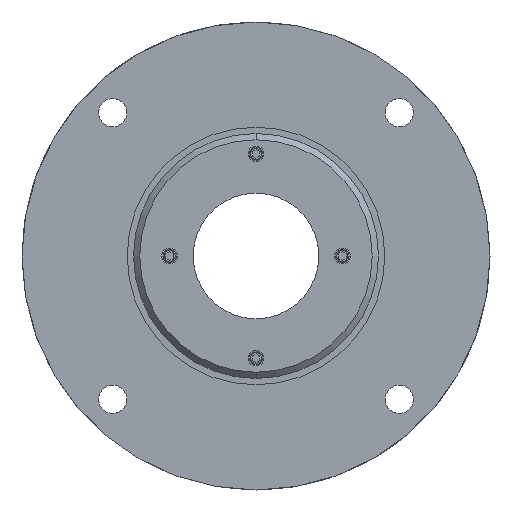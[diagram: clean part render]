
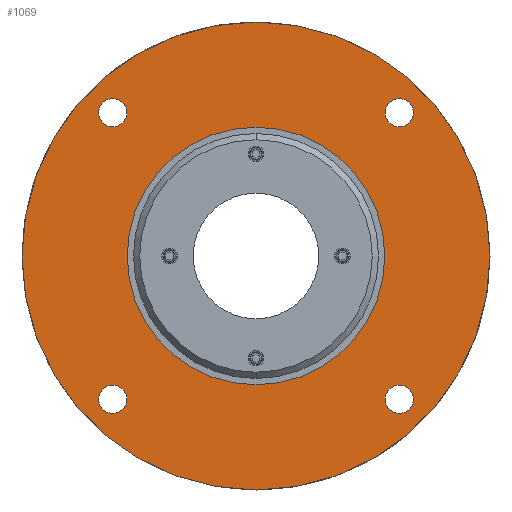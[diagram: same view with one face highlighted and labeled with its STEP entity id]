
A CAD part, front view. The second image highlights one B-rep face of the part: STEP entity #1069.
In plain terms, the highlighted planar face has unit normal (0, -1, 0).
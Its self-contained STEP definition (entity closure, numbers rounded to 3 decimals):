
#67 = EDGE_CURVE ( 'NONE', #1519, #170, #4394, .T. ) ;
#106 = PLANE ( 'NONE',  #676 ) ;
#115 = EDGE_CURVE ( 'NONE', #1840, #1195, #2066, .T. ) ;
#170 = VERTEX_POINT ( 'NONE', #1176 ) ;
#190 = EDGE_CURVE ( 'NONE', #1016, #457, #758, .T. ) ;
#217 = DIRECTION ( 'NONE',  ( 0., 0., 1. ) ) ;
#282 = DIRECTION ( 'NONE',  ( 0., 1., 0. ) ) ;
#429 = CIRCLE ( 'NONE', #1963, 74.5 ) ;
#457 = VERTEX_POINT ( 'NONE', #2402 ) ;
#498 = FACE_OUTER_BOUND ( 'NONE', #1170, .T. ) ;
#500 = CARTESIAN_POINT ( 'NONE',  ( 0., -13., 0. ) ) ;
#517 = CARTESIAN_POINT ( 'NONE',  ( 0., -13., 0. ) ) ;
#622 = CARTESIAN_POINT ( 'NONE',  ( -45.608, -13., -45.608 ) ) ;
#623 = FACE_BOUND ( 'NONE', #3109, .T. ) ;
#676 = AXIS2_PLACEMENT_3D ( 'NONE', #1303, #4006, #1286 ) ;
#703 = CARTESIAN_POINT ( 'NONE',  ( 45.608, -13., 41.108 ) ) ;
#755 = AXIS2_PLACEMENT_3D ( 'NONE', #3522, #1188, #3906 ) ;
#758 = CIRCLE ( 'NONE', #1545, 4.5 ) ;
#843 = AXIS2_PLACEMENT_3D ( 'NONE', #1682, #4406, #2067 ) ;
#901 = DIRECTION ( 'NONE',  ( 0., 0., -1. ) ) ;
#923 = EDGE_LOOP ( 'NONE', ( #4645, #2796 ) ) ;
#976 = CIRCLE ( 'NONE', #1664, 4.5 ) ;
#1013 = DIRECTION ( 'NONE',  ( 0., 0., 1. ) ) ;
#1016 = VERTEX_POINT ( 'NONE', #4866 ) ;
#1055 = ORIENTED_EDGE ( 'NONE', *, *, #4961, .T. ) ;
#1069 = ADVANCED_FACE ( 'NONE', ( #4700, #1698, #2612, #623, #1580, #498 ), #106, .T. ) ;
#1170 = EDGE_LOOP ( 'NONE', ( #2144, #2912 ) ) ;
#1176 = CARTESIAN_POINT ( 'NONE',  ( 0., -13., 41. ) ) ;
#1188 = DIRECTION ( 'NONE',  ( 0., 1., 0. ) ) ;
#1195 = VERTEX_POINT ( 'NONE', #3073 ) ;
#1205 = CARTESIAN_POINT ( 'NONE',  ( 45.608, -13., 45.608 ) ) ;
#1242 = EDGE_LOOP ( 'NONE', ( #1055, #3015 ) ) ;
#1253 = VERTEX_POINT ( 'NONE', #1884 ) ;
#1260 = DIRECTION ( 'NONE',  ( 0., 0., 1. ) ) ;
#1286 = DIRECTION ( 'NONE',  ( 0., 0., -1. ) ) ;
#1303 = CARTESIAN_POINT ( 'NONE',  ( 0., -13., 0. ) ) ;
#1369 = VERTEX_POINT ( 'NONE', #4560 ) ;
#1519 = VERTEX_POINT ( 'NONE', #3036 ) ;
#1522 = AXIS2_PLACEMENT_3D ( 'NONE', #517, #3286, #901 ) ;
#1545 = AXIS2_PLACEMENT_3D ( 'NONE', #1558, #4839, #4219 ) ;
#1558 = CARTESIAN_POINT ( 'NONE',  ( -45.608, -13., 45.608 ) ) ;
#1580 = FACE_BOUND ( 'NONE', #1900, .T. ) ;
#1613 = DIRECTION ( 'NONE',  ( 0., 0., 1. ) ) ;
#1640 = VERTEX_POINT ( 'NONE', #703 ) ;
#1656 = CARTESIAN_POINT ( 'NONE',  ( -45.608, -13., -41.108 ) ) ;
#1664 = AXIS2_PLACEMENT_3D ( 'NONE', #4919, #2582, #217 ) ;
#1682 = CARTESIAN_POINT ( 'NONE',  ( -45.608, -13., -45.608 ) ) ;
#1698 = FACE_BOUND ( 'NONE', #3292, .T. ) ;
#1840 = VERTEX_POINT ( 'NONE', #4997 ) ;
#1884 = CARTESIAN_POINT ( 'NONE',  ( 0., -13., 74.5 ) ) ;
#1897 = CIRCLE ( 'NONE', #843, 4.5 ) ;
#1900 = EDGE_LOOP ( 'NONE', ( #4772, #1973 ) ) ;
#1963 = AXIS2_PLACEMENT_3D ( 'NONE', #500, #2743, #3126 ) ;
#1973 = ORIENTED_EDGE ( 'NONE', *, *, #3496, .T. ) ;
#1983 = CARTESIAN_POINT ( 'NONE',  ( 0., -13., -74.5 ) ) ;
#2012 = VERTEX_POINT ( 'NONE', #1656 ) ;
#2056 = CIRCLE ( 'NONE', #755, 41. ) ;
#2066 = CIRCLE ( 'NONE', #2134, 4.5 ) ;
#2067 = DIRECTION ( 'NONE',  ( 0., 0., 1. ) ) ;
#2134 = AXIS2_PLACEMENT_3D ( 'NONE', #3913, #2701, #1260 ) ;
#2144 = ORIENTED_EDGE ( 'NONE', *, *, #3744, .T. ) ;
#2234 = DIRECTION ( 'NONE',  ( 0., 0., 1. ) ) ;
#2296 = DIRECTION ( 'NONE',  ( 0., 1., 0. ) ) ;
#2402 = CARTESIAN_POINT ( 'NONE',  ( -45.608, -13., 50.108 ) ) ;
#2490 = CIRCLE ( 'NONE', #1522, 74.5 ) ;
#2575 = EDGE_CURVE ( 'NONE', #1253, #3256, #429, .T. ) ;
#2582 = DIRECTION ( 'NONE',  ( 0., 1., 0. ) ) ;
#2612 = FACE_BOUND ( 'NONE', #923, .T. ) ;
#2638 = EDGE_CURVE ( 'NONE', #3222, #1640, #3055, .T. ) ;
#2680 = ORIENTED_EDGE ( 'NONE', *, *, #2638, .T. ) ;
#2701 = DIRECTION ( 'NONE',  ( 0., 1., 0. ) ) ;
#2743 = DIRECTION ( 'NONE',  ( 0., -1., 0. ) ) ;
#2796 = ORIENTED_EDGE ( 'NONE', *, *, #115, .T. ) ;
#2912 = ORIENTED_EDGE ( 'NONE', *, *, #2575, .T. ) ;
#3015 = ORIENTED_EDGE ( 'NONE', *, *, #190, .T. ) ;
#3036 = CARTESIAN_POINT ( 'NONE',  ( 0., -13., -41. ) ) ;
#3055 = CIRCLE ( 'NONE', #4851, 4.5 ) ;
#3073 = CARTESIAN_POINT ( 'NONE',  ( 45.608, -13., -41.108 ) ) ;
#3105 = DIRECTION ( 'NONE',  ( 0., 1., 0. ) ) ;
#3109 = EDGE_LOOP ( 'NONE', ( #3770, #3778 ) ) ;
#3126 = DIRECTION ( 'NONE',  ( 0., 0., -1. ) ) ;
#3205 = EDGE_CURVE ( 'NONE', #1640, #3222, #4084, .T. ) ;
#3222 = VERTEX_POINT ( 'NONE', #4736 ) ;
#3248 = EDGE_CURVE ( 'NONE', #2012, #1369, #1897, .T. ) ;
#3256 = VERTEX_POINT ( 'NONE', #1983 ) ;
#3286 = DIRECTION ( 'NONE',  ( 0., -1., 0. ) ) ;
#3292 = EDGE_LOOP ( 'NONE', ( #2680, #4316 ) ) ;
#3342 = CIRCLE ( 'NONE', #5090, 4.5 ) ;
#3377 = DIRECTION ( 'NONE',  ( 0., 1., 0. ) ) ;
#3432 = EDGE_CURVE ( 'NONE', #1369, #2012, #3342, .T. ) ;
#3481 = AXIS2_PLACEMENT_3D ( 'NONE', #4649, #2296, #5041 ) ;
#3496 = EDGE_CURVE ( 'NONE', #170, #1519, #2056, .T. ) ;
#3522 = CARTESIAN_POINT ( 'NONE',  ( 0., -13., 0. ) ) ;
#3744 = EDGE_CURVE ( 'NONE', #3256, #1253, #2490, .T. ) ;
#3770 = ORIENTED_EDGE ( 'NONE', *, *, #3248, .T. ) ;
#3778 = ORIENTED_EDGE ( 'NONE', *, *, #3432, .T. ) ;
#3906 = DIRECTION ( 'NONE',  ( 0., 0., -1. ) ) ;
#3913 = CARTESIAN_POINT ( 'NONE',  ( 45.608, -13., -45.608 ) ) ;
#3923 = DIRECTION ( 'NONE',  ( 0., 1., 0. ) ) ;
#4006 = DIRECTION ( 'NONE',  ( 0., -1., 0. ) ) ;
#4049 = CIRCLE ( 'NONE', #3481, 4.5 ) ;
#4084 = CIRCLE ( 'NONE', #4653, 4.5 ) ;
#4219 = DIRECTION ( 'NONE',  ( 0., 0., 1. ) ) ;
#4316 = ORIENTED_EDGE ( 'NONE', *, *, #3205, .T. ) ;
#4394 = CIRCLE ( 'NONE', #4996, 41. ) ;
#4406 = DIRECTION ( 'NONE',  ( 0., 1., 0. ) ) ;
#4535 = CARTESIAN_POINT ( 'NONE',  ( 45.608, -13., 45.608 ) ) ;
#4560 = CARTESIAN_POINT ( 'NONE',  ( -45.608, -13., -50.108 ) ) ;
#4645 = ORIENTED_EDGE ( 'NONE', *, *, #4682, .T. ) ;
#4649 = CARTESIAN_POINT ( 'NONE',  ( -45.608, -13., 45.608 ) ) ;
#4653 = AXIS2_PLACEMENT_3D ( 'NONE', #1205, #3923, #1613 ) ;
#4682 = EDGE_CURVE ( 'NONE', #1195, #1840, #976, .T. ) ;
#4700 = FACE_BOUND ( 'NONE', #1242, .T. ) ;
#4736 = CARTESIAN_POINT ( 'NONE',  ( 45.608, -13., 50.108 ) ) ;
#4772 = ORIENTED_EDGE ( 'NONE', *, *, #67, .T. ) ;
#4839 = DIRECTION ( 'NONE',  ( 0., 1., 0. ) ) ;
#4851 = AXIS2_PLACEMENT_3D ( 'NONE', #4535, #3105, #2234 ) ;
#4866 = CARTESIAN_POINT ( 'NONE',  ( -45.608, -13., 41.108 ) ) ;
#4919 = CARTESIAN_POINT ( 'NONE',  ( 45.608, -13., -45.608 ) ) ;
#4960 = DIRECTION ( 'NONE',  ( 0., 0., -1. ) ) ;
#4961 = EDGE_CURVE ( 'NONE', #457, #1016, #4049, .T. ) ;
#4996 = AXIS2_PLACEMENT_3D ( 'NONE', #5106, #282, #4960 ) ;
#4997 = CARTESIAN_POINT ( 'NONE',  ( 45.608, -13., -50.108 ) ) ;
#5041 = DIRECTION ( 'NONE',  ( 0., 0., 1. ) ) ;
#5090 = AXIS2_PLACEMENT_3D ( 'NONE', #622, #3377, #1013 ) ;
#5106 = CARTESIAN_POINT ( 'NONE',  ( 0., -13., 0. ) ) ;
